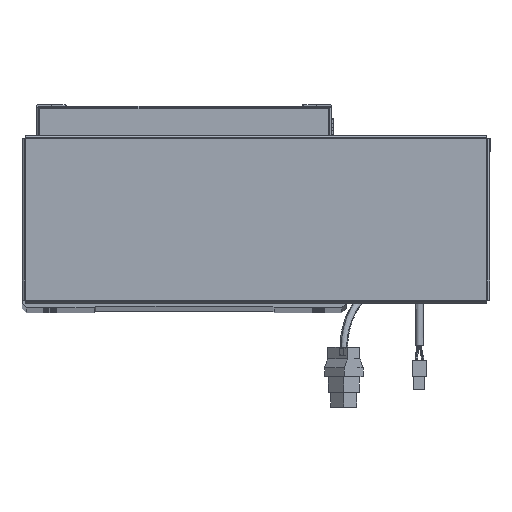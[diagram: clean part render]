
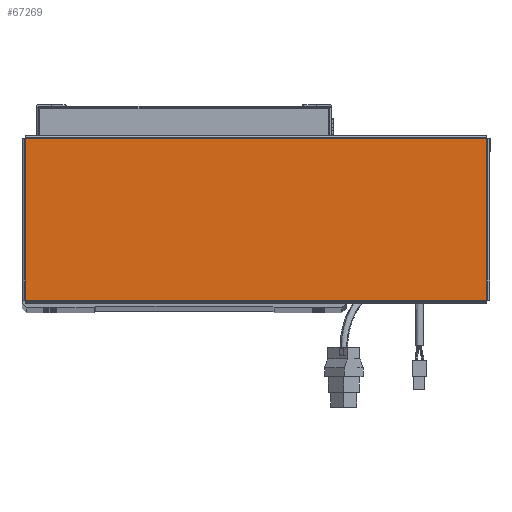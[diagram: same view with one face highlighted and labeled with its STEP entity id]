
A CAD part, top view. The second image highlights one B-rep face of the part: STEP entity #67269.
In plain terms, the highlighted planar face has unit normal (0, 0, 1).
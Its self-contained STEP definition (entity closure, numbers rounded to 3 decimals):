
#2307 = ORIENTED_EDGE ( 'NONE', *, *, #51780, .T. ) ;
#3055 = FACE_OUTER_BOUND ( 'NONE', #52228, .T. ) ;
#4318 = EDGE_CURVE ( 'NONE', #28895, #41555, #65140, .T. ) ;
#5006 = VERTEX_POINT ( 'NONE', #21806 ) ;
#6383 = LINE ( 'NONE', #12331, #52003 ) ;
#12331 = CARTESIAN_POINT ( 'NONE',  ( 156.513, -54.793, 0. ) ) ;
#12580 = DIRECTION ( 'NONE',  ( 0., 1., 0. ) ) ;
#13827 = CARTESIAN_POINT ( 'NONE',  ( 156.513, -54.763, 0. ) ) ;
#14110 = LINE ( 'NONE', #41677, #41211 ) ;
#15044 = CARTESIAN_POINT ( 'NONE',  ( 156.513, 54.763, 0. ) ) ;
#21806 = CARTESIAN_POINT ( 'NONE',  ( -156.513, -54.763, 0. ) ) ;
#23037 = CARTESIAN_POINT ( 'NONE',  ( -156.543, -54.763, 0. ) ) ;
#26431 = DIRECTION ( 'NONE',  ( 0., 0., 1. ) ) ;
#26680 = VECTOR ( 'NONE', #38887, 1000. ) ;
#28895 = VERTEX_POINT ( 'NONE', #15044 ) ;
#29007 = CARTESIAN_POINT ( 'NONE',  ( -156.513, 54.763, 0. ) ) ;
#31729 = DIRECTION ( 'NONE',  ( -1., 0., 0. ) ) ;
#32549 = ORIENTED_EDGE ( 'NONE', *, *, #40303, .T. ) ;
#37430 = CARTESIAN_POINT ( 'NONE',  ( 156.543, 54.763, 0. ) ) ;
#38862 = EDGE_CURVE ( 'NONE', #41555, #5006, #14110, .T. ) ;
#38887 = DIRECTION ( 'NONE',  ( 1., 0., 0. ) ) ;
#40303 = EDGE_CURVE ( 'NONE', #5006, #58784, #44451, .T. ) ;
#41211 = VECTOR ( 'NONE', #62460, 1000. ) ;
#41555 = VERTEX_POINT ( 'NONE', #29007 ) ;
#41677 = CARTESIAN_POINT ( 'NONE',  ( -156.513, 54.793, 0. ) ) ;
#43209 = DIRECTION ( 'NONE',  ( 1., 0., 0. ) ) ;
#44362 = ORIENTED_EDGE ( 'NONE', *, *, #38862, .T. ) ;
#44451 = LINE ( 'NONE', #23037, #26680 ) ;
#51780 = EDGE_CURVE ( 'NONE', #58784, #28895, #6383, .T. ) ;
#52003 = VECTOR ( 'NONE', #12580, 1000. ) ;
#52228 = EDGE_LOOP ( 'NONE', ( #32549, #2307, #61612, #44362 ) ) ;
#53147 = CARTESIAN_POINT ( 'NONE',  ( 0., 0., 0. ) ) ;
#53823 = PLANE ( 'NONE',  #64818 ) ;
#57504 = VECTOR ( 'NONE', #31729, 1000. ) ;
#58784 = VERTEX_POINT ( 'NONE', #13827 ) ;
#61612 = ORIENTED_EDGE ( 'NONE', *, *, #4318, .T. ) ;
#62460 = DIRECTION ( 'NONE',  ( 0., -1., 0. ) ) ;
#64818 = AXIS2_PLACEMENT_3D ( 'NONE', #53147, #26431, #43209 ) ;
#65140 = LINE ( 'NONE', #37430, #57504 ) ;
#67269 = ADVANCED_FACE ( 'NONE', ( #3055 ), #53823, .T. ) ;
